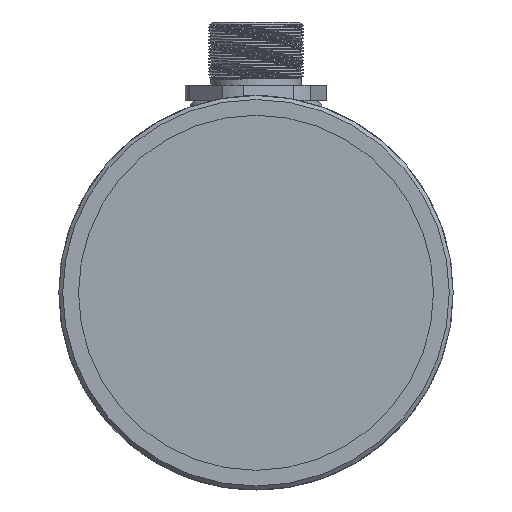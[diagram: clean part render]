
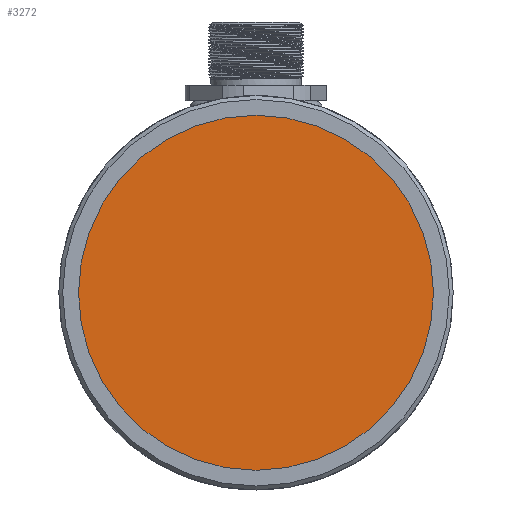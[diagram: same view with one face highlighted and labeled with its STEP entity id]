
A CAD part, left-side view. The second image highlights one B-rep face of the part: STEP entity #3272.
In plain terms, the highlighted planar face has unit normal (-1, 0, 0).
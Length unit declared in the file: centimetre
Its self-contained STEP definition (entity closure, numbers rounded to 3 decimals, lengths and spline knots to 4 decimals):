
#848=CIRCLE('',#3486,2.25);
#956=VERTEX_POINT('',#4293);
#1523=EDGE_CURVE('',#956,#956,#848,.T.);
#1967=ORIENTED_EDGE('',*,*,#1523,.T.);
#2784=EDGE_LOOP('',(#1967));
#3031=FACE_BOUND('',#2784,.T.);
#3272=ADVANCED_FACE('',(#3031),#18688,.T.);
#3486=AXIS2_PLACEMENT_3D('',#4292,#3747,#3748);
#3488=AXIS2_PLACEMENT_3D('',#4296,#3751,$);
#3747=DIRECTION('',(-1.,0.,0.));
#3748=DIRECTION('',(0.,0.,2.25));
#3751=DIRECTION('',(-1.,0.,0.));
#4292=CARTESIAN_POINT('',(0.1,0.,0.));
#4293=CARTESIAN_POINT('',(0.1,0.,2.25));
#4296=CARTESIAN_POINT('',(0.1,0.,0.));
#18688=PLANE('',#3488);
